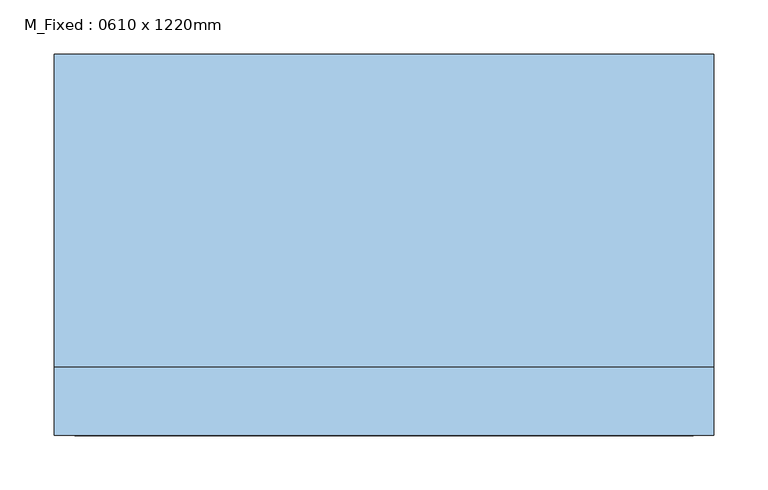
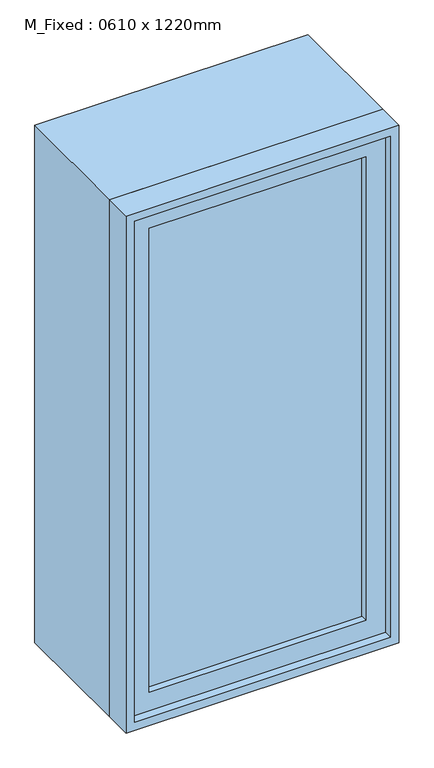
"""IFC4 building model written with IfcOpenShell, lengths in millimetres: window geometry, M_Fixed : 0610 x 1220mm."""

from ifc_helpers import new_model, si_unit, frame, origin, place, context, project, spatial, polyline, outline, extrude, source, transform, mapped, element, save


def m_fixed_0610_x_1220mm_9ad90eeb(model_context):
    return source(origin(), model_context, "Body", "SweptSolid", [
        extrude(outline(polyline([(-242.0, -154.2125), (-242.0, -142.2125), (242.0, -142.2125), (242.0, -154.2125), (-242.0, -154.2125)])), frame((0.0, 0.0, 978.0), z_axis=(0.0, 0.0, 1.0), x_axis=(1.0, 0.0, 0.0)), (0.0, 0.0, 1.0), 1094.0),
        extrude(outline(polyline([(2116.0, -286.0), (934.0, -286.0), (934.0, 286.0), (2116.0, 286.0), (2116.0, -286.0)]), holes=[polyline([(2072.0, -242.0), (2072.0, 242.0), (978.0, 242.0), (978.0, -242.0), (2072.0, -242.0)])]), frame((0.0, -170.2125, 0.0), z_axis=(0.0, 1.0, 0.0), x_axis=(0.0, 0.0, 1.0)), (0.0, 0.0, 1.0), 44.0),
        extrude(outline(polyline([(2135.0, -305.0), (915.0, -305.0), (915.0, 305.0), (2135.0, 305.0), (2135.0, -305.0)]), holes=[polyline([(2116.0, -286.0), (2116.0, 286.0), (934.0, 286.0), (934.0, -286.0), (2116.0, -286.0)])]), frame((0.0, -189.2125, 0.0), z_axis=(0.0, 1.0, 0.0), x_axis=(0.0, 0.0, 1.0)), (0.0, 0.0, 1.0), 63.0),
        extrude(outline(polyline([(2135.0, -305.0), (915.0, -305.0), (915.0, 305.0), (2135.0, 305.0), (2135.0, -305.0)]), holes=[polyline([(2103.0, -273.0), (2103.0, 273.0), (947.0, 273.0), (947.0, -273.0), (2103.0, -273.0)])]), frame((0.0, -126.2125, 0.0), z_axis=(0.0, 1.0, 0.0), x_axis=(0.0, 0.0, 1.0)), (0.0, 0.0, 1.0), 289.425),
    ])


if __name__ == "__main__":
    model = new_model("IFC4")
    model_context = context("Model", 3, world=origin())
    ifc_project = project(units=[si_unit("LENGTHUNIT", "METRE", prefix="MILLI")], contexts=[model_context])
    site = spatial("IfcSite", under=ifc_project)
    building = spatial("IfcBuilding", under=site)
    placement = place(None, origin())
    m_fixed_0610_x_1220mm_shape = m_fixed_0610_x_1220mm_9ad90eeb(model_context)
    element("IfcWindow", 1, ObjectType="M_Fixed : 0610 x 1220mm", at=placement, inside=building, context=model_context, shape_type="MappedRepresentation", body=[
        mapped(m_fixed_0610_x_1220mm_shape, transform((0.0, 0.0, 0.0), x_axis=(1.0, 0.0, 0.0), y_axis=(0.0, 1.0, 0.0), z_axis=(0.0, 0.0, 1.0))),
    ])
    save(model, "model.ifc")
